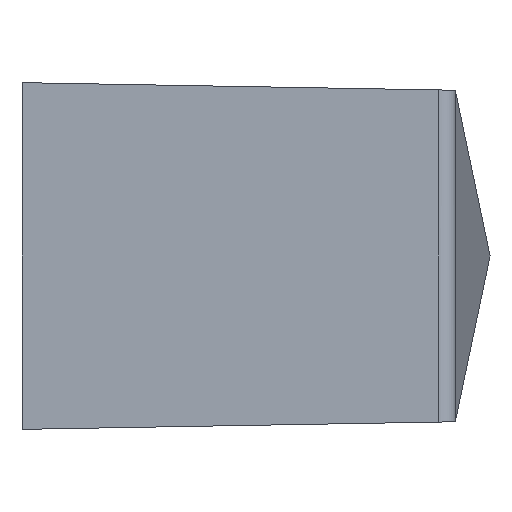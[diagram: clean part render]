
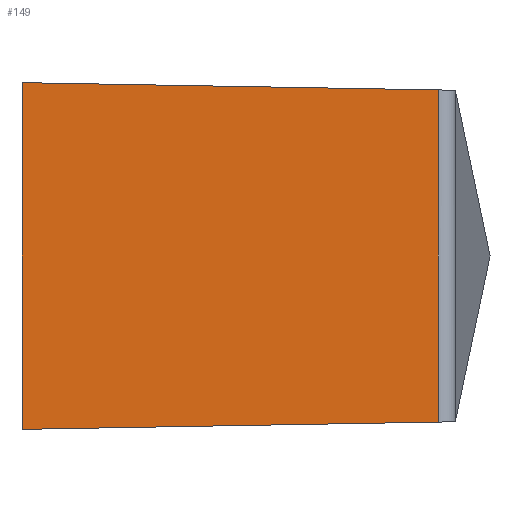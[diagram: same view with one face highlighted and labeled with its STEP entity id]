
A CAD part, left-side view. The second image highlights one B-rep face of the part: STEP entity #149.
In plain terms, the highlighted planar face has unit normal (-1, -0.018, 0).
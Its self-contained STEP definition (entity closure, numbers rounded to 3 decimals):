
#149 = ADVANCED_FACE( '', ( #409 ), #410, .T. );
#157 = EDGE_CURVE( '', #247, #373, #419, .T. );
#173 = EDGE_CURVE( '', #357, #373, #437, .T. );
#197 = EDGE_CURVE( '', #357, #215, #463, .T. );
#215 = VERTEX_POINT( '', #481 );
#247 = VERTEX_POINT( '', #516 );
#293 = EDGE_CURVE( '', #215, #247, #566, .T. );
#357 = VERTEX_POINT( '', #640 );
#373 = VERTEX_POINT( '', #657 );
#409 = FACE_OUTER_BOUND( '', #684, .T. );
#410 = PLANE( '', #685 );
#419 = LINE( '', #696, #697 );
#437 = LINE( '', #724, #725 );
#463 = LINE( '', #757, #758 );
#481 = CARTESIAN_POINT( '', ( -5., 0., 10. ) );
#516 = CARTESIAN_POINT( '', ( -5., 0., -10. ) );
#566 = LINE( '', #900, #901 );
#640 = CARTESIAN_POINT( '', ( -4.581, -24.017, 9.581 ) );
#657 = CARTESIAN_POINT( '', ( -4.581, -24.017, -9.581 ) );
#684 = EDGE_LOOP( '', ( #1062, #1063, #1064, #1065 ) );
#685 = AXIS2_PLACEMENT_3D( '', #1066, #1067, #1068 );
#696 = CARTESIAN_POINT( '', ( -4.958, -2.381, -9.958 ) );
#697 = VECTOR( '', #1090, 1. );
#724 = CARTESIAN_POINT( '', ( -4.581, -24.017, 10. ) );
#725 = VECTOR( '', #1116, 1. );
#757 = CARTESIAN_POINT( '', ( -4.743, -14.703, 9.743 ) );
#758 = VECTOR( '', #1140, 1. );
#900 = CARTESIAN_POINT( '', ( -5., 0., 10. ) );
#901 = VECTOR( '', #1234, 1. );
#1062 = ORIENTED_EDGE( '', *, *, #157, .T. );
#1063 = ORIENTED_EDGE( '', *, *, #173, .F. );
#1064 = ORIENTED_EDGE( '', *, *, #197, .T. );
#1065 = ORIENTED_EDGE( '', *, *, #293, .T. );
#1066 = CARTESIAN_POINT( '', ( -5., 0., 10. ) );
#1067 = DIRECTION( '', ( -1., -0.017, 0. ) );
#1068 = DIRECTION( '', ( -0.017, 1., 0. ) );
#1090 = DIRECTION( '', ( 0.017, -1., 0.017 ) );
#1116 = DIRECTION( '', ( 0., 0., -1. ) );
#1140 = DIRECTION( '', ( -0.017, 1., 0.017 ) );
#1234 = DIRECTION( '', ( 0., 0., -1. ) );
